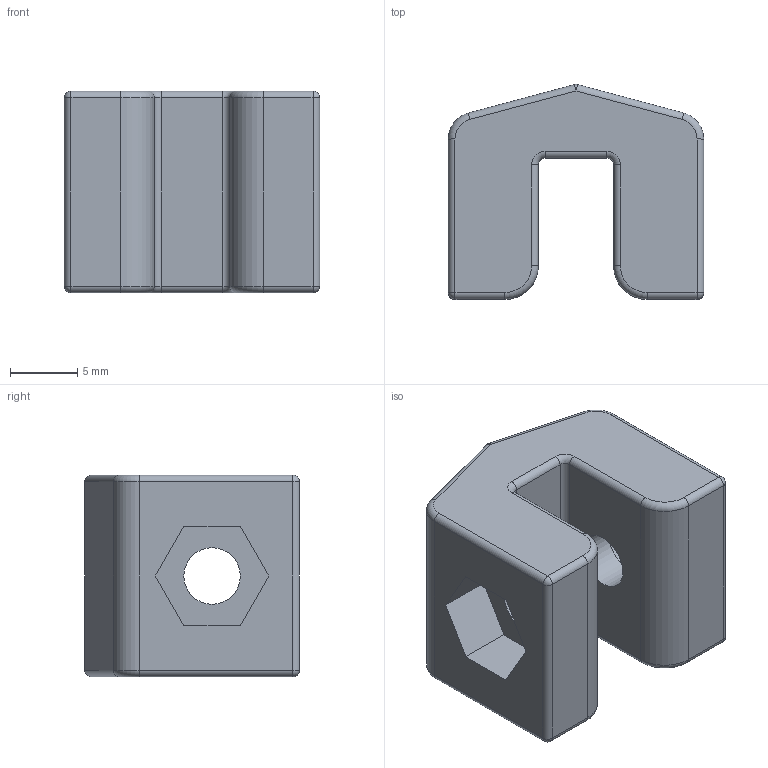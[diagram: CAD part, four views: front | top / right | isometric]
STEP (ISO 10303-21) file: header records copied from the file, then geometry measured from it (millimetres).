
FILE_DESCRIPTION (( 'STEP AP214' ), '1' );
FILE_NAME ('L19167.step', '2024-12-03T16:23:07', ( '' ), ( '' ), 'SwSTEP 2.0', 'SolidWorks 2023', '' );
FILE_SCHEMA (( 'AUTOMOTIVE_DESIGN' ));
Length unit declared in the file: millimetre
Products named in the file (1): L19167
Bounding box: 19 x 15.98 x 15 mm (x, y, z)
Volume: 2776.8 mm3; surface area: 1860.4 mm2
Topology: 1 solids, 1 shells, 67 faces, 157 edges, 88 vertices
Faces by surface type: cylinder 30, plane 19, torus 12, sphere 6
Full cylindrical faces by diameter (mm): 4.2 x2, 8.3 x1
Entity records: 1833 total; most frequent: DIRECTION 352, CARTESIAN_POINT 296, ORIENTED_EDGE 288, EDGE_CURVE 144, AXIS2_PLACEMENT_3D 140, VERTEX_POINT 84, EDGE_LOOP 76, LINE 72
